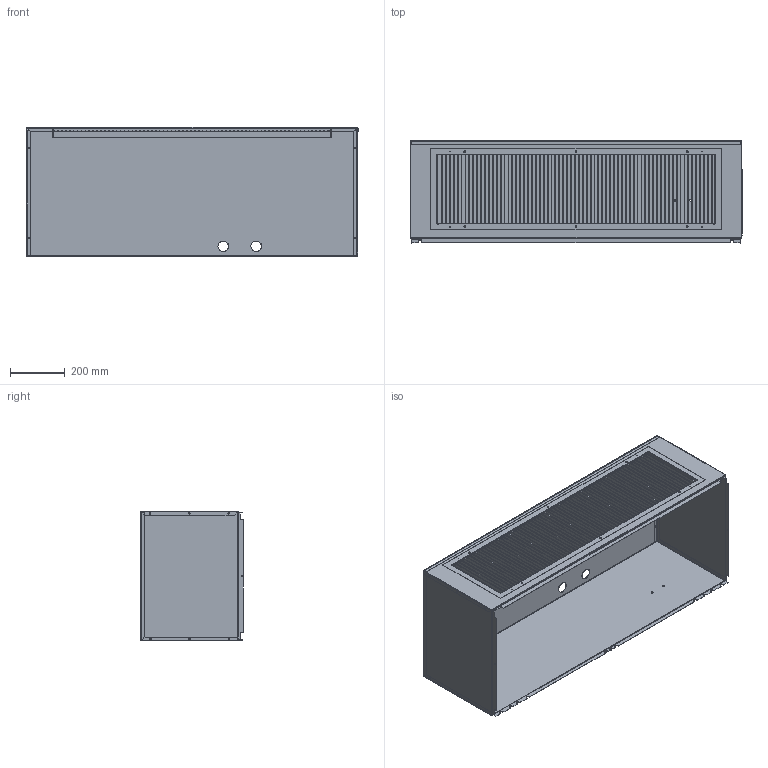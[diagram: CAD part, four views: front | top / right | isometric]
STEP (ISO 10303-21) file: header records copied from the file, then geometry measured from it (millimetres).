
FILE_DESCRIPTION (( 'STEP AP214' ), '1' );
FILE_NAME ('QPB48-X.STEP', '2016-07-14T18:25:09', ( 'BMC' ), ( 'Bard Manufacturing Co., Inc.' ), 'SwSTEP 2.0', 'SolidWorks 2016', '' );
FILE_SCHEMA (( 'AUTOMOTIVE_DESIGN' ));
Length unit declared in the file: inch
Products named in the file (6): QPB48-X; 114-125; 100-361; 100-362; 108-150; 7051-045
Assembly tree (5 placements, depth 2):
  QPB48-X
    114-125
    100-361
    100-362
    108-150
    7051-045
Bounding box: 1212.85 x 374.76 x 474.73 mm (x, y, z)
Surface area: 4243925.2 mm2 (no closed solid volume)
Topology: 0 solids, 6 shells, 892 faces, 2747 edges, 1727 vertices
Faces by surface type: plane 475, cylinder 402, bspline 15
Entity records: 31644 total; most frequent: CARTESIAN_POINT 5725, DIRECTION 5572, ORIENTED_EDGE 5494, EDGE_CURVE 2747, AXIS2_PLACEMENT_3D 1970, VERTEX_POINT 1727, VECTOR 1632, LINE 1632
